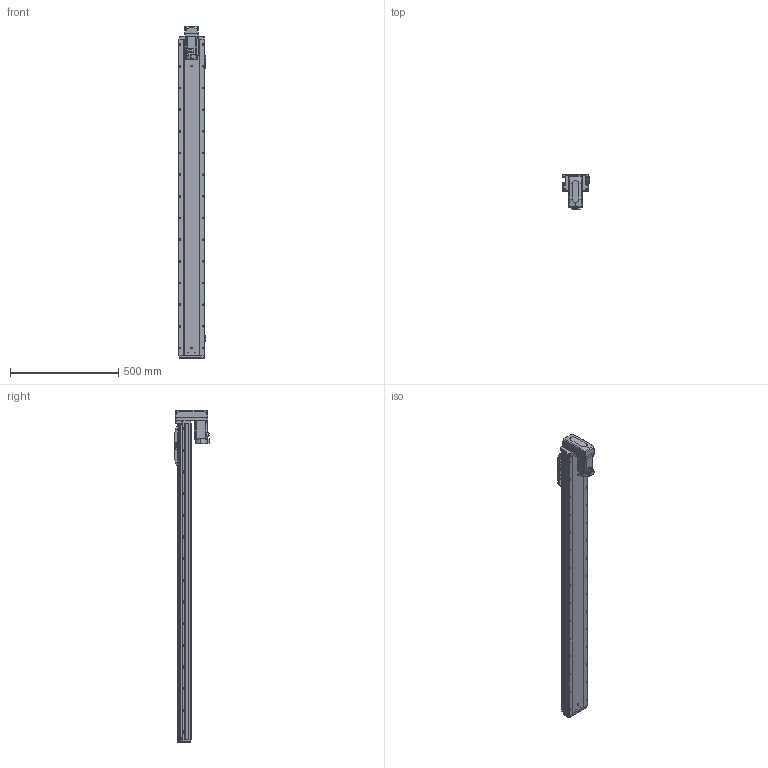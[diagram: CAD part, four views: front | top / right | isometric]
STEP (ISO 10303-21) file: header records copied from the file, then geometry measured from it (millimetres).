
FILE_DESCRIPTION (( 'STEP AP203' ), '1' );
FILE_NAME ('GTH12-1250-BM-M40-C4.step', '2023-08-28T01:11:54', ( '微软用户' ), ( '微软中国' ), 'SwSTEP 2.0', 'SolidWorks 2020', '' );
FILE_SCHEMA (( 'CONFIG_CONTROL_DESIGN' ));
Length unit declared in the file: millimetre
Products named in the file (18): GTH120-003; GTH80-022; CTHA86-033_M40B; GTH120-006; GTH80-028; GTH120-027-1_GTH120-027-2; GTH120-004; GTH50-023; GTH12-1250-BM-M40-C4; GTH120-013; GTH50-024; GBT 70.1-M3℅6; GBT96.1-2002 3×0.8; GBT 70.1-M5×16; BTH-M3X5X6; GTH120-001_1250; GBT 70.3-M3℅8; hg-kn43j_-s100_
Assembly tree (59 placements, depth 2):
  GTH12-1250-BM-M40-C4
    GTH120-001_1250
    GTH120-003
    GTH120-006
    GTH120-004
    GTH120-013
    GBT 70.1-M3℅6  x14
    GBT 70.1-M5×16  x10
    GBT 70.3-M3℅8  x4
    GTH80-022
    GTH80-028  x2
    GTH50-023  x3
    GTH50-024  x3
    GBT96.1-2002 3×0.8  x6
    BTH-M3X5X6  x8
    hg-kn43j_-s100_
    CTHA86-033_M40B
    GTH120-027-1_GTH120-027-2
Bounding box: 125.7 x 159.8 x 1532 mm (x, y, z)
Volume: 10773403.1 mm3; surface area: 884345.2 mm2
Topology: 61 solids, 61 shells, 2589 faces, 6082 edges, 3735 vertices
Faces by surface type: plane 1310, cylinder 775, cone 316, torus 174, sphere 8, bspline 6
Entity records: 50160 total; most frequent: CARTESIAN_POINT 8536, DIRECTION 8358, ORIENTED_EDGE 7774, EDGE_CURVE 3887, AXIS2_PLACEMENT_3D 2922, LINE 2514, VECTOR 2514, VERTEX_POINT 2456
